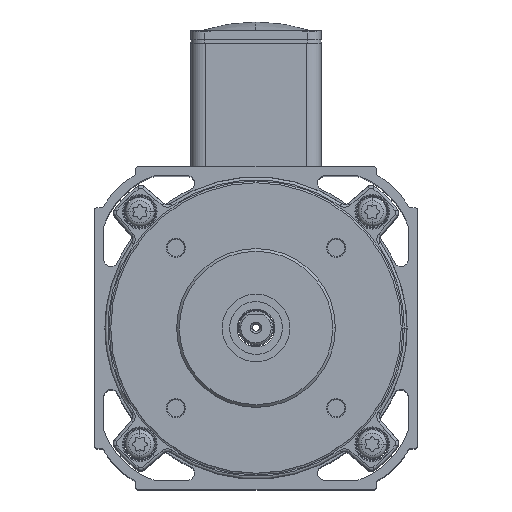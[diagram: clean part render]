
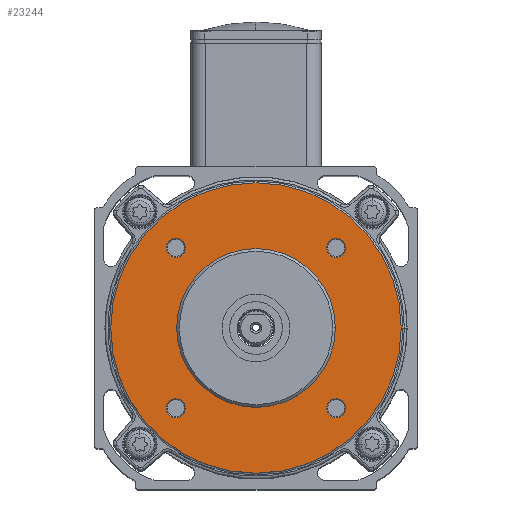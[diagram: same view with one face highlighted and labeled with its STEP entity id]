
A CAD part, top view. The second image highlights one B-rep face of the part: STEP entity #23244.
In plain terms, the highlighted planar face has unit normal (0, 0, 1).
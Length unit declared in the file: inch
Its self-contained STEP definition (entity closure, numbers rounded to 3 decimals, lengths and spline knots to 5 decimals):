
#12206 = CARTESIAN_POINT ( 'NONE',  ( 1.60087, 0., 5.335 ) ) ;
#12334 = CARTESIAN_POINT ( 'NONE',  ( 0.77888, -0.88388, 5.335 ) ) ;
#12363 = CARTESIAN_POINT ( 'NONE',  ( -1.60087, 0., 5.335 ) ) ;
#12364 = DIRECTION ( 'NONE',  ( -1., 0., 0. ) ) ;
#12365 = DIRECTION ( 'NONE',  ( 0., 0., -1. ) ) ;
#12366 = CARTESIAN_POINT ( 'NONE',  ( 0., 0., 5.335 ) ) ;
#12367 = AXIS2_PLACEMENT_3D ( 'NONE', #12366, #12365, #12364 ) ;
#12368 = CIRCLE ( 'NONE', #12367, 1.60087 ) ;
#12386 = CARTESIAN_POINT ( 'NONE',  ( 0.98888, 0.88388, 5.335 ) ) ;
#12387 = DIRECTION ( 'NONE',  ( 1., 0., 0. ) ) ;
#12388 = DIRECTION ( 'NONE',  ( 0., 0., 1. ) ) ;
#12389 = CARTESIAN_POINT ( 'NONE',  ( 0.88388, 0.88388, 5.335 ) ) ;
#12390 = AXIS2_PLACEMENT_3D ( 'NONE', #12389, #12388, #12387 ) ;
#12391 = CIRCLE ( 'NONE', #12390, 0.105 ) ;
#12392 = CARTESIAN_POINT ( 'NONE',  ( 0.77888, 0.88388, 5.335 ) ) ;
#12427 = CIRCLE ( 'NONE', #12487, 0.105 ) ;
#12428 = CARTESIAN_POINT ( 'NONE',  ( -0.98888, -0.88388, 5.335 ) ) ;
#12467 = CARTESIAN_POINT ( 'NONE',  ( 0.98888, -0.88388, 5.335 ) ) ;
#12468 = DIRECTION ( 'NONE',  ( 1., 0., 0. ) ) ;
#12469 = DIRECTION ( 'NONE',  ( 0., 0., 1. ) ) ;
#12470 = AXIS2_PLACEMENT_3D ( 'NONE', #12477, #12469, #12468 ) ;
#12471 = CIRCLE ( 'NONE', #12470, 0.105 ) ;
#12477 = CARTESIAN_POINT ( 'NONE',  ( 0.88388, -0.88388, 5.335 ) ) ;
#12483 = CARTESIAN_POINT ( 'NONE',  ( -0.77888, -0.88388, 5.335 ) ) ;
#12484 = DIRECTION ( 'NONE',  ( 1., 0., 0. ) ) ;
#12485 = DIRECTION ( 'NONE',  ( 0., 0., 1. ) ) ;
#12486 = CARTESIAN_POINT ( 'NONE',  ( -0.88388, -0.88388, 5.335 ) ) ;
#12487 = AXIS2_PLACEMENT_3D ( 'NONE', #12486, #12485, #12484 ) ;
#12531 = CARTESIAN_POINT ( 'NONE',  ( -0.875, 0., 5.335 ) ) ;
#12532 = CARTESIAN_POINT ( 'NONE',  ( 0.875, 0., 5.335 ) ) ;
#12533 = DIRECTION ( 'NONE',  ( -1., 0., 0. ) ) ;
#12534 = DIRECTION ( 'NONE',  ( 0., 0., 1. ) ) ;
#12535 = AXIS2_PLACEMENT_3D ( 'NONE', #12542, #12534, #12533 ) ;
#12536 = CIRCLE ( 'NONE', #12535, 0.875 ) ;
#12542 = CARTESIAN_POINT ( 'NONE',  ( 0., 0., 5.335 ) ) ;
#12568 = CARTESIAN_POINT ( 'NONE',  ( -0.77888, 0.88388, 5.335 ) ) ;
#12569 = DIRECTION ( 'NONE',  ( 1., 0., 0. ) ) ;
#12570 = DIRECTION ( 'NONE',  ( 0., 0., 1. ) ) ;
#12571 = CARTESIAN_POINT ( 'NONE',  ( -0.88388, 0.88388, 5.335 ) ) ;
#12572 = AXIS2_PLACEMENT_3D ( 'NONE', #12571, #12570, #12569 ) ;
#12577 = CIRCLE ( 'NONE', #12572, 0.105 ) ;
#12580 = CARTESIAN_POINT ( 'NONE',  ( -0.98888, 0.88388, 5.335 ) ) ;
#13752 = DIRECTION ( 'NONE',  ( -1., 0., 0. ) ) ;
#13753 = DIRECTION ( 'NONE',  ( 0., 0., 1. ) ) ;
#13754 = AXIS2_PLACEMENT_3D ( 'NONE', #13760, #13753, #13752 ) ;
#13755 = CIRCLE ( 'NONE', #13754, 0.875 ) ;
#13760 = CARTESIAN_POINT ( 'NONE',  ( 0., 0., 5.335 ) ) ;
#13772 = DIRECTION ( 'NONE',  ( 1., 0., 0. ) ) ;
#13773 = DIRECTION ( 'NONE',  ( 0., 0., 1. ) ) ;
#13775 = CARTESIAN_POINT ( 'NONE',  ( -0.88388, -0.88388, 5.335 ) ) ;
#13776 = AXIS2_PLACEMENT_3D ( 'NONE', #13775, #13773, #13772 ) ;
#13777 = CIRCLE ( 'NONE', #13776, 0.105 ) ;
#13785 = DIRECTION ( 'NONE',  ( 1., 0., 0. ) ) ;
#13786 = DIRECTION ( 'NONE',  ( 0., 0., 1. ) ) ;
#13787 = AXIS2_PLACEMENT_3D ( 'NONE', #13793, #13786, #13785 ) ;
#13788 = CIRCLE ( 'NONE', #13787, 0.105 ) ;
#13793 = CARTESIAN_POINT ( 'NONE',  ( 0.88388, -0.88388, 5.335 ) ) ;
#13825 = DIRECTION ( 'NONE',  ( 1., 0., 0. ) ) ;
#13826 = DIRECTION ( 'NONE',  ( 0., 0., 1. ) ) ;
#13827 = CARTESIAN_POINT ( 'NONE',  ( -0.88388, 0.88388, 5.335 ) ) ;
#13828 = AXIS2_PLACEMENT_3D ( 'NONE', #13827, #13826, #13825 ) ;
#13829 = CIRCLE ( 'NONE', #13828, 0.105 ) ;
#13838 = CARTESIAN_POINT ( 'NONE',  ( 0.88388, 0.88388, 5.335 ) ) ;
#13857 = DIRECTION ( 'NONE',  ( -1., 0., 0. ) ) ;
#13858 = DIRECTION ( 'NONE',  ( 0., 0., -1. ) ) ;
#13859 = AXIS2_PLACEMENT_3D ( 'NONE', #13864, #13858, #13857 ) ;
#13860 = CIRCLE ( 'NONE', #13859, 1.60087 ) ;
#13864 = CARTESIAN_POINT ( 'NONE',  ( 0., 0., 5.335 ) ) ;
#13887 = DIRECTION ( 'NONE',  ( -1., 0., 0. ) ) ;
#13888 = DIRECTION ( 'NONE',  ( 0., 0., -1. ) ) ;
#13889 = CARTESIAN_POINT ( 'NONE',  ( 0., 0., 5.335 ) ) ;
#13890 = AXIS2_PLACEMENT_3D ( 'NONE', #13889, #13888, #13887 ) ;
#13891 = PLANE ( 'NONE',  #13890 ) ;
#13892 = FACE_OUTER_BOUND ( 'NONE', #23210, .T. ) ;
#13893 = FACE_BOUND ( 'NONE', #23231, .T. ) ;
#13894 = FACE_BOUND ( 'NONE', #23228, .T. ) ;
#13895 = FACE_BOUND ( 'NONE', #23225, .T. ) ;
#13896 = FACE_BOUND ( 'NONE', #23222, .T. ) ;
#13897 = FACE_BOUND ( 'NONE', #23245, .T. ) ;
#13898 = DIRECTION ( 'NONE',  ( 1., 0., 0. ) ) ;
#13899 = DIRECTION ( 'NONE',  ( 0., 0., 1. ) ) ;
#13900 = AXIS2_PLACEMENT_3D ( 'NONE', #13838, #13899, #13898 ) ;
#13901 = CIRCLE ( 'NONE', #13900, 0.105 ) ;
#22623 = VERTEX_POINT ( 'NONE', #12206 ) ;
#22690 = VERTEX_POINT ( 'NONE', #12334 ) ;
#22694 = VERTEX_POINT ( 'NONE', #12392 ) ;
#22696 = EDGE_CURVE ( 'NONE', #22694, #22697, #12391, .T. ) ;
#22697 = VERTEX_POINT ( 'NONE', #12386 ) ;
#22708 = EDGE_CURVE ( 'NONE', #22709, #22623, #12368, .T. ) ;
#22709 = VERTEX_POINT ( 'NONE', #12363 ) ;
#22740 = VERTEX_POINT ( 'NONE', #12428 ) ;
#22742 = EDGE_CURVE ( 'NONE', #22740, #22743, #12427, .T. ) ;
#22743 = VERTEX_POINT ( 'NONE', #12483 ) ;
#22747 = EDGE_CURVE ( 'NONE', #22690, #22748, #12471, .T. ) ;
#22748 = VERTEX_POINT ( 'NONE', #12467 ) ;
#22779 = EDGE_CURVE ( 'NONE', #22780, #22781, #12536, .T. ) ;
#22780 = VERTEX_POINT ( 'NONE', #12532 ) ;
#22781 = VERTEX_POINT ( 'NONE', #12531 ) ;
#22789 = VERTEX_POINT ( 'NONE', #12580 ) ;
#22792 = EDGE_CURVE ( 'NONE', #22789, #22793, #12577, .T. ) ;
#22793 = VERTEX_POINT ( 'NONE', #12568 ) ;
#23151 = EDGE_CURVE ( 'NONE', #22781, #22780, #13755, .T. ) ;
#23176 = EDGE_CURVE ( 'NONE', #22748, #22690, #13788, .T. ) ;
#23186 = EDGE_CURVE ( 'NONE', #22743, #22740, #13777, .T. ) ;
#23196 = EDGE_CURVE ( 'NONE', #22793, #22789, #13829, .T. ) ;
#23209 = ORIENTED_EDGE ( 'NONE', *, *, #23151, .F. ) ;
#23210 = EDGE_LOOP ( 'NONE', ( #23211, #23212 ) ) ;
#23211 = ORIENTED_EDGE ( 'NONE', *, *, #22708, .F. ) ;
#23212 = ORIENTED_EDGE ( 'NONE', *, *, #23213, .F. ) ;
#23213 = EDGE_CURVE ( 'NONE', #22623, #22709, #13860, .T. ) ;
#23220 = ORIENTED_EDGE ( 'NONE', *, *, #23242, .F. ) ;
#23221 = ORIENTED_EDGE ( 'NONE', *, *, #22696, .F. ) ;
#23222 = EDGE_LOOP ( 'NONE', ( #23223, #23224 ) ) ;
#23223 = ORIENTED_EDGE ( 'NONE', *, *, #23176, .F. ) ;
#23224 = ORIENTED_EDGE ( 'NONE', *, *, #22747, .F. ) ;
#23225 = EDGE_LOOP ( 'NONE', ( #23226, #23227 ) ) ;
#23226 = ORIENTED_EDGE ( 'NONE', *, *, #23186, .F. ) ;
#23227 = ORIENTED_EDGE ( 'NONE', *, *, #22742, .F. ) ;
#23228 = EDGE_LOOP ( 'NONE', ( #23229, #23230 ) ) ;
#23229 = ORIENTED_EDGE ( 'NONE', *, *, #23196, .F. ) ;
#23230 = ORIENTED_EDGE ( 'NONE', *, *, #22792, .F. ) ;
#23231 = EDGE_LOOP ( 'NONE', ( #23285, #23209 ) ) ;
#23242 = EDGE_CURVE ( 'NONE', #22697, #22694, #13901, .T. ) ;
#23244 = ADVANCED_FACE ( 'NONE', ( #13897, #13896, #13895, #13894, #13893, #13892 ), #13891, .F. ) ;
#23245 = EDGE_LOOP ( 'NONE', ( #23220, #23221 ) ) ;
#23285 = ORIENTED_EDGE ( 'NONE', *, *, #22779, .F. ) ;
